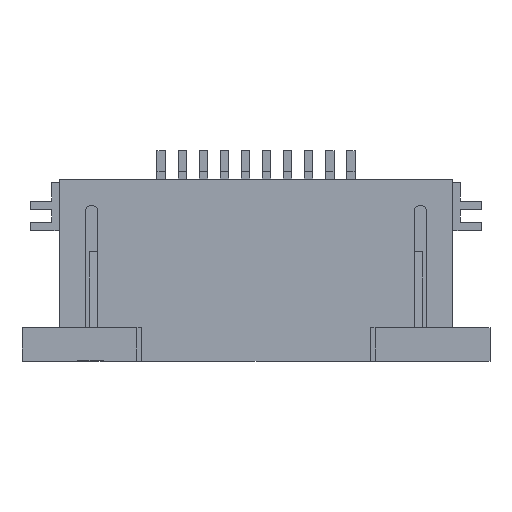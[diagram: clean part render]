
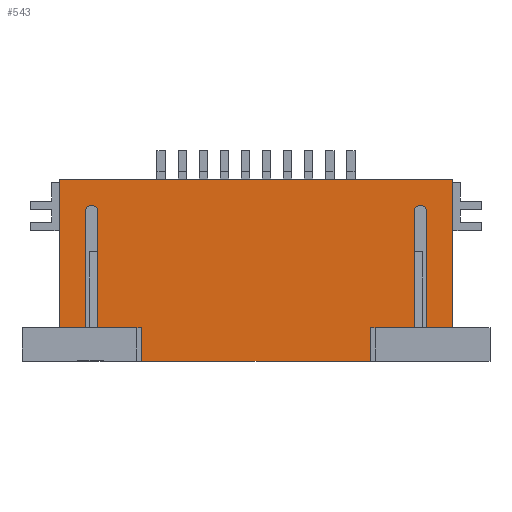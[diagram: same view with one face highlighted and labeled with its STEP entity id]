
A CAD part, top view. The second image highlights one B-rep face of the part: STEP entity #543.
In plain terms, the highlighted planar face has unit normal (0, 0, 1).
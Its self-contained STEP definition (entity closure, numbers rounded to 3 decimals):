
#82=CIRCLE('',#6747,0.15);
#83=CIRCLE('',#6748,0.15);
#232=FACE_OUTER_BOUND('',#1160,.T.);
#543=ADVANCED_FACE('',(#232),#843,.T.);
#843=PLANE('',#6749);
#1160=EDGE_LOOP('',(#2268,#2269,#2270,#2271,#2272,#2273,#2274,#2275,#2276,
#2277,#2278,#2279,#2280,#2281,#2282,#2283,#2284,#2285));
#2268=ORIENTED_EDGE('',*,*,#4241,.F.);
#2269=ORIENTED_EDGE('',*,*,#4439,.F.);
#2270=ORIENTED_EDGE('',*,*,#4440,.F.);
#2271=ORIENTED_EDGE('',*,*,#3866,.F.);
#2272=ORIENTED_EDGE('',*,*,#4320,.F.);
#2273=ORIENTED_EDGE('',*,*,#4441,.T.);
#2274=ORIENTED_EDGE('',*,*,#4311,.T.);
#2275=ORIENTED_EDGE('',*,*,#3925,.F.);
#2276=ORIENTED_EDGE('',*,*,#4442,.F.);
#2277=ORIENTED_EDGE('',*,*,#4443,.F.);
#2278=ORIENTED_EDGE('',*,*,#4444,.F.);
#2279=ORIENTED_EDGE('',*,*,#3904,.F.);
#2280=ORIENTED_EDGE('',*,*,#4322,.F.);
#2281=ORIENTED_EDGE('',*,*,#4445,.T.);
#2282=ORIENTED_EDGE('',*,*,#4446,.T.);
#2283=ORIENTED_EDGE('',*,*,#4447,.T.);
#2284=ORIENTED_EDGE('',*,*,#4326,.F.);
#2285=ORIENTED_EDGE('',*,*,#3873,.F.);
#3240=VERTEX_POINT('',#8576);
#3241=VERTEX_POINT('',#8578);
#3246=VERTEX_POINT('',#8589);
#3248=VERTEX_POINT('',#8592);
#3278=VERTEX_POINT('',#8656);
#3279=VERTEX_POINT('',#8657);
#3299=VERTEX_POINT('',#8697);
#3300=VERTEX_POINT('',#8699);
#3504=VERTEX_POINT('',#9320);
#3557=VERTEX_POINT('',#9457);
#3564=VERTEX_POINT('',#9473);
#3565=VERTEX_POINT('',#9478);
#3568=VERTEX_POINT('',#9486);
#3657=VERTEX_POINT('',#9695);
#3658=VERTEX_POINT('',#9699);
#3659=VERTEX_POINT('',#9701);
#3660=VERTEX_POINT('',#9704);
#3661=VERTEX_POINT('',#9706);
#3866=EDGE_CURVE('',#3240,#3241,#4808,.T.);
#3873=EDGE_CURVE('',#3246,#3248,#4815,.T.);
#3904=EDGE_CURVE('',#3278,#3279,#4846,.T.);
#3925=EDGE_CURVE('',#3299,#3300,#4867,.T.);
#4241=EDGE_CURVE('',#3504,#3246,#5163,.T.);
#4311=EDGE_CURVE('',#3557,#3300,#5231,.T.);
#4320=EDGE_CURVE('',#3564,#3240,#5240,.T.);
#4322=EDGE_CURVE('',#3565,#3278,#5242,.T.);
#4326=EDGE_CURVE('',#3248,#3568,#5246,.T.);
#4439=EDGE_CURVE('',#3657,#3504,#82,.T.);
#4440=EDGE_CURVE('',#3241,#3657,#5357,.T.);
#4441=EDGE_CURVE('',#3564,#3557,#5358,.T.);
#4442=EDGE_CURVE('',#3658,#3299,#5359,.T.);
#4443=EDGE_CURVE('',#3659,#3658,#83,.T.);
#4444=EDGE_CURVE('',#3279,#3659,#5360,.T.);
#4445=EDGE_CURVE('',#3565,#3660,#5361,.T.);
#4446=EDGE_CURVE('',#3660,#3661,#5362,.T.);
#4447=EDGE_CURVE('',#3661,#3568,#5363,.T.);
#4808=LINE('',#8577,#5702);
#4815=LINE('',#8591,#5709);
#4846=LINE('',#8655,#5740);
#4867=LINE('',#8698,#5761);
#5163=LINE('',#9321,#6057);
#5231=LINE('',#9456,#6125);
#5240=LINE('',#9474,#6134);
#5242=LINE('',#9477,#6136);
#5246=LINE('',#9485,#6140);
#5357=LINE('',#9696,#6251);
#5358=LINE('',#9697,#6252);
#5359=LINE('',#9698,#6253);
#5360=LINE('',#9702,#6254);
#5361=LINE('',#9703,#6255);
#5362=LINE('',#9705,#6256);
#5363=LINE('',#9707,#6257);
#5702=VECTOR('',#6959,1.);
#5709=VECTOR('',#6966,1.);
#5740=VECTOR('',#7003,1.);
#5761=VECTOR('',#7024,1.);
#6057=VECTOR('',#7564,1.);
#6125=VECTOR('',#7662,1.);
#6134=VECTOR('',#7673,1.);
#6136=VECTOR('',#7677,1.);
#6140=VECTOR('',#7683,1.);
#6251=VECTOR('',#7814,1.);
#6252=VECTOR('',#7815,1.);
#6253=VECTOR('',#7816,1.);
#6254=VECTOR('',#7819,1.);
#6255=VECTOR('',#7820,1.);
#6256=VECTOR('',#7821,1.);
#6257=VECTOR('',#7822,1.);
#6747=AXIS2_PLACEMENT_3D('',#9694,#7812,#7813);
#6748=AXIS2_PLACEMENT_3D('',#9700,#7817,#7818);
#6749=AXIS2_PLACEMENT_3D('',#9708,#7823,#7824);
#6959=DIRECTION('',(-1.,0.,0.));
#6966=DIRECTION('',(-1.,0.,0.));
#7003=DIRECTION('',(-1.,0.,0.));
#7024=DIRECTION('',(-1.,0.,0.));
#7564=DIRECTION('',(0.,-1.,0.));
#7662=DIRECTION('',(0.,-1.,0.));
#7673=DIRECTION('',(0.,-1.,0.));
#7677=DIRECTION('',(-1.,0.,0.));
#7683=DIRECTION('',(-1.,0.,0.));
#7812=DIRECTION('',(0.,0.,1.));
#7813=DIRECTION('',(1.,0.,0.));
#7814=DIRECTION('',(0.,1.,0.));
#7815=DIRECTION('',(-1.,0.,0.));
#7816=DIRECTION('',(0.,-1.,0.));
#7817=DIRECTION('',(0.,0.,1.));
#7818=DIRECTION('',(1.,0.,0.));
#7819=DIRECTION('',(0.,1.,0.));
#7820=DIRECTION('',(0.,-1.,0.));
#7821=DIRECTION('',(1.,0.,0.));
#7822=DIRECTION('',(0.,1.,0.));
#7823=DIRECTION('',(0.,0.,1.));
#7824=DIRECTION('',(1.,0.,0.));
#8576=CARTESIAN_POINT('',(4.65,0.,1.9));
#8577=CARTESIAN_POINT('',(4.65,0.,1.9));
#8578=CARTESIAN_POINT('',(4.05,0.,1.9));
#8589=CARTESIAN_POINT('',(3.75,0.,1.9));
#8591=CARTESIAN_POINT('',(4.65,0.,1.9));
#8592=CARTESIAN_POINT('',(2.825,0.,1.9));
#8655=CARTESIAN_POINT('',(4.65,0.,1.9));
#8656=CARTESIAN_POINT('',(-2.825,0.,1.9));
#8657=CARTESIAN_POINT('',(-3.75,0.,1.9));
#8697=CARTESIAN_POINT('',(-4.05,0.,1.9));
#8698=CARTESIAN_POINT('',(4.65,0.,1.9));
#8699=CARTESIAN_POINT('',(-4.65,0.,1.9));
#9320=CARTESIAN_POINT('',(3.75,2.75,1.9));
#9321=CARTESIAN_POINT('',(3.75,2.75,1.9));
#9456=CARTESIAN_POINT('',(-4.65,3.5,1.9));
#9457=CARTESIAN_POINT('',(-4.65,3.5,1.9));
#9473=CARTESIAN_POINT('',(4.65,3.5,1.9));
#9474=CARTESIAN_POINT('',(4.65,3.5,1.9));
#9477=CARTESIAN_POINT('',(4.65,0.,1.9));
#9478=CARTESIAN_POINT('',(-2.709,0.,1.9));
#9485=CARTESIAN_POINT('',(4.65,0.,1.9));
#9486=CARTESIAN_POINT('',(2.709,0.,1.9));
#9694=CARTESIAN_POINT('',(3.9,2.75,1.9));
#9695=CARTESIAN_POINT('',(4.05,2.75,1.9));
#9696=CARTESIAN_POINT('',(4.05,0.,1.9));
#9697=CARTESIAN_POINT('',(4.65,3.5,1.9));
#9698=CARTESIAN_POINT('',(-4.05,2.75,1.9));
#9699=CARTESIAN_POINT('',(-4.05,2.75,1.9));
#9700=CARTESIAN_POINT('',(-3.9,2.75,1.9));
#9701=CARTESIAN_POINT('',(-3.75,2.75,1.9));
#9702=CARTESIAN_POINT('',(-3.75,0.,1.9));
#9703=CARTESIAN_POINT('',(-2.709,0.,1.9));
#9704=CARTESIAN_POINT('',(-2.709,-0.8,1.9));
#9705=CARTESIAN_POINT('',(-2.709,-0.8,1.9));
#9706=CARTESIAN_POINT('',(2.709,-0.8,1.9));
#9707=CARTESIAN_POINT('',(2.709,-0.8,1.9));
#9708=CARTESIAN_POINT('',(4.65,3.5,1.9));
